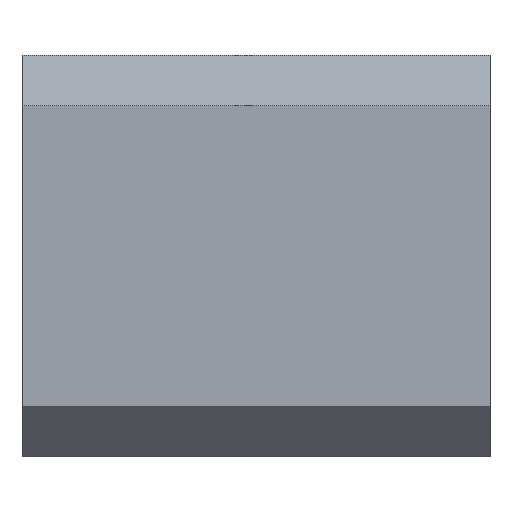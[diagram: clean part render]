
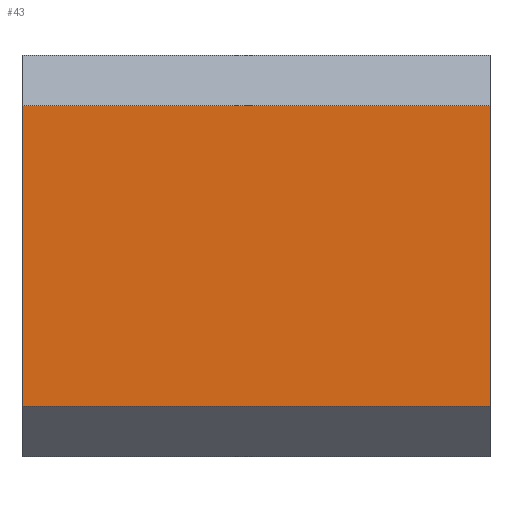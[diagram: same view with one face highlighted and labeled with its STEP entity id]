
A CAD part, left-side view. The second image highlights one B-rep face of the part: STEP entity #43.
In plain terms, the highlighted planar face has unit normal (-1, 0, 0).
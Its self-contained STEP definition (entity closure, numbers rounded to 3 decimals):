
#26 = CARTESIAN_POINT ( 'NONE',  ( -32.255, 10.814, 6. ) ) ;
#39 = DIRECTION ( 'NONE',  ( -1., 0., 0. ) ) ;
#43 = ADVANCED_FACE ( 'NONE', ( #286 ), #894, .T. ) ;
#44 = DIRECTION ( 'NONE',  ( 0., 0., 1. ) ) ;
#59 = DIRECTION ( 'NONE',  ( 0., 0., 1. ) ) ;
#111 = LINE ( 'NONE', #26, #691 ) ;
#127 = ORIENTED_EDGE ( 'NONE', *, *, #663, .F. ) ;
#200 = LINE ( 'NONE', #477, #716 ) ;
#209 = CARTESIAN_POINT ( 'NONE',  ( -32.255, -3.186, 10.5 ) ) ;
#227 = DIRECTION ( 'NONE',  ( 0., -1., 0. ) ) ;
#233 = CARTESIAN_POINT ( 'NONE',  ( -32.255, 3.814, 1.5 ) ) ;
#235 = EDGE_CURVE ( 'NONE', #794, #729, #824, .T. ) ;
#249 = ORIENTED_EDGE ( 'NONE', *, *, #747, .T. ) ;
#250 = CARTESIAN_POINT ( 'NONE',  ( -32.255, -3.186, 1.5 ) ) ;
#262 = ORIENTED_EDGE ( 'NONE', *, *, #519, .F. ) ;
#286 = FACE_OUTER_BOUND ( 'NONE', #467, .T. ) ;
#428 = CARTESIAN_POINT ( 'NONE',  ( -32.255, 10.814, 10.5 ) ) ;
#467 = EDGE_LOOP ( 'NONE', ( #127, #249, #262, #528 ) ) ;
#477 = CARTESIAN_POINT ( 'NONE',  ( -32.255, -3.186, 6. ) ) ;
#505 = VECTOR ( 'NONE', #227, 1000. ) ;
#519 = EDGE_CURVE ( 'NONE', #729, #793, #200, .T. ) ;
#528 = ORIENTED_EDGE ( 'NONE', *, *, #235, .F. ) ;
#568 = CARTESIAN_POINT ( 'NONE',  ( -32.255, -3.186, 1.5 ) ) ;
#600 = DIRECTION ( 'NONE',  ( 0., 0., -1. ) ) ;
#612 = LINE ( 'NONE', #233, #505 ) ;
#616 = VECTOR ( 'NONE', #790, 1000. ) ;
#663 = EDGE_CURVE ( 'NONE', #769, #794, #111, .T. ) ;
#691 = VECTOR ( 'NONE', #44, 1000. ) ;
#699 = AXIS2_PLACEMENT_3D ( 'NONE', #568, #39, #59 ) ;
#716 = VECTOR ( 'NONE', #600, 1000. ) ;
#717 = CARTESIAN_POINT ( 'NONE',  ( -32.255, 10.814, 1.5 ) ) ;
#729 = VERTEX_POINT ( 'NONE', #209 ) ;
#747 = EDGE_CURVE ( 'NONE', #769, #793, #612, .T. ) ;
#769 = VERTEX_POINT ( 'NONE', #717 ) ;
#786 = CARTESIAN_POINT ( 'NONE',  ( -32.255, 3.814, 10.5 ) ) ;
#790 = DIRECTION ( 'NONE',  ( 0., -1., 0. ) ) ;
#793 = VERTEX_POINT ( 'NONE', #250 ) ;
#794 = VERTEX_POINT ( 'NONE', #428 ) ;
#824 = LINE ( 'NONE', #786, #616 ) ;
#894 = PLANE ( 'NONE',  #699 ) ;
